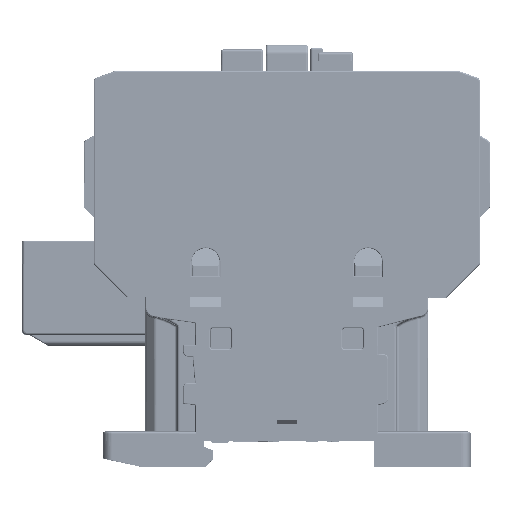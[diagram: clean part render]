
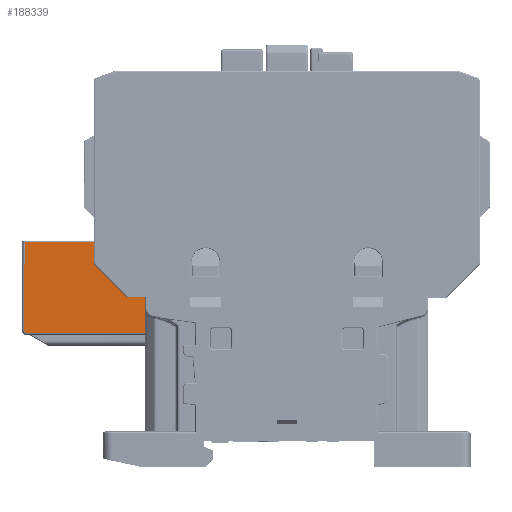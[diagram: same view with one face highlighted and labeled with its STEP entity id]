
A CAD part, top view. The second image highlights one B-rep face of the part: STEP entity #188339.
In plain terms, the highlighted planar face has unit normal (0, 0, 1).
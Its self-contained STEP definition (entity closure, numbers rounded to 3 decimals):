
#5070=DIRECTION('',(1.,0.,0.));
#5071=VECTOR('',#5070,0.1);
#5072=CARTESIAN_POINT('',(-25.2,7.,-16.45));
#5073=LINE('',#5072,#5071);
#5074=DIRECTION('',(0.,-1.,0.));
#5075=VECTOR('',#5074,4.8);
#5076=CARTESIAN_POINT('',(-25.1,11.8,-16.45));
#5077=LINE('',#5076,#5075);
#5078=DIRECTION('',(-1.,0.,0.));
#5079=VECTOR('',#5078,16.7);
#5080=CARTESIAN_POINT('',(-8.4,11.8,-16.45));
#5081=LINE('',#5080,#5079);
#5082=DIRECTION('',(0.,-1.,0.));
#5083=VECTOR('',#5082,1.3);
#5084=CARTESIAN_POINT('',(-8.4,11.8,-16.45));
#5085=LINE('',#5084,#5083);
#5086=DIRECTION('',(-1.,0.,0.));
#5087=VECTOR('',#5086,4.7);
#5088=CARTESIAN_POINT('',(-3.7,10.5,-16.45));
#5089=LINE('',#5088,#5087);
#5090=DIRECTION('',(0.,-1.,0.));
#5091=VECTOR('',#5090,4.2);
#5092=CARTESIAN_POINT('',(-3.7,10.5,-16.45));
#5093=LINE('',#5092,#5091);
#5094=DIRECTION('',(-0.394,0.919,0.));
#5095=VECTOR('',#5094,3.808);
#5096=CARTESIAN_POINT('',(-2.2,2.8,-16.45));
#5097=LINE('',#5096,#5095);
#5098=DIRECTION('',(-1.,0.,0.));
#5099=VECTOR('',#5098,2.5);
#5100=CARTESIAN_POINT('',(0.3,2.8,-16.45));
#5101=LINE('',#5100,#5099);
#5102=DIRECTION('',(0.,-1.,0.));
#5103=VECTOR('',#5102,2.8);
#5104=CARTESIAN_POINT('',(0.3,2.8,-16.45));
#5105=LINE('',#5104,#5103);
#5106=DIRECTION('',(1.,0.,0.));
#5107=VECTOR('',#5106,0.2);
#5108=CARTESIAN_POINT('',(0.3,0.,-16.45));
#5109=LINE('',#5108,#5107);
#5110=DIRECTION('',(0.,-1.,0.));
#5111=VECTOR('',#5110,7.5);
#5112=CARTESIAN_POINT('',(0.5,0.,-16.45));
#5113=LINE('',#5112,#5111);
#5114=DIRECTION('',(-1.,0.,0.));
#5115=VECTOR('',#5114,25.2);
#5116=CARTESIAN_POINT('',(0.5,-7.5,-16.45));
#5117=LINE('',#5116,#5115);
#5118=CARTESIAN_POINT('',(-24.7,-7.,-16.45));
#5119=DIRECTION('',(0.,0.,1.));
#5120=DIRECTION('',(-1.,0.,0.));
#5121=AXIS2_PLACEMENT_3D('',#5118,#5119,#5120);
#5123=DIRECTION('',(0.,1.,0.));
#5124=VECTOR('',#5123,14.);
#5125=CARTESIAN_POINT('',(-25.2,-7.,-16.45));
#5126=LINE('',#5125,#5124);
#147765=CARTESIAN_POINT('',(-3.7,10.5,-16.45));
#147767=VERTEX_POINT('',#147765);
#147800=CARTESIAN_POINT('',(0.3,2.8,-16.45));
#147801=CARTESIAN_POINT('',(-2.2,2.8,-16.45));
#147802=VERTEX_POINT('',#147800);
#147803=VERTEX_POINT('',#147801);
#147804=CARTESIAN_POINT('',(-3.7,6.3,-16.45));
#147805=VERTEX_POINT('',#147804);
#147814=CARTESIAN_POINT('',(0.3,0.,-16.45));
#147815=VERTEX_POINT('',#147814);
#148010=CARTESIAN_POINT('',(-25.2,7.,-16.45));
#148012=VERTEX_POINT('',#148010);
#148027=CARTESIAN_POINT('',(0.5,-7.5,-16.45));
#148028=VERTEX_POINT('',#148027);
#148053=CARTESIAN_POINT('',(-25.2,-7.,-16.45));
#148054=VERTEX_POINT('',#148053);
#148055=CARTESIAN_POINT('',(-24.7,-7.5,-16.45));
#148056=VERTEX_POINT('',#148055);
#159836=CARTESIAN_POINT('',(0.5,0.,-16.45));
#159838=VERTEX_POINT('',#159836);
#173747=CARTESIAN_POINT('',(-25.1,11.8,-16.45));
#173748=VERTEX_POINT('',#173747);
#174531=CARTESIAN_POINT('',(-8.4,11.8,-16.45));
#174532=VERTEX_POINT('',#174531);
#174960=CARTESIAN_POINT('',(-25.1,7.,-16.45));
#174961=VERTEX_POINT('',#174960);
#174970=CARTESIAN_POINT('',(-8.4,10.5,-16.45));
#174971=VERTEX_POINT('',#174970);
#188305=CARTESIAN_POINT('',(0.5,-8.,-16.45));
#188306=DIRECTION('',(0.,0.,1.));
#188307=DIRECTION('',(-1.,0.,0.));
#188308=AXIS2_PLACEMENT_3D('',#188305,#188306,#188307);
#188309=PLANE('',#188308);
#188311=ORIENTED_EDGE('',*,*,#188310,.T.);
#188313=ORIENTED_EDGE('',*,*,#188312,.F.);
#188315=ORIENTED_EDGE('',*,*,#188314,.F.);
#188317=ORIENTED_EDGE('',*,*,#188316,.T.);
#188319=ORIENTED_EDGE('',*,*,#188318,.F.);
#188321=ORIENTED_EDGE('',*,*,#188320,.T.);
#188323=ORIENTED_EDGE('',*,*,#188322,.F.);
#188325=ORIENTED_EDGE('',*,*,#188324,.F.);
#188327=ORIENTED_EDGE('',*,*,#188326,.T.);
#188329=ORIENTED_EDGE('',*,*,#188328,.T.);
#188330=ORIENTED_EDGE('',*,*,#188140,.T.);
#188332=ORIENTED_EDGE('',*,*,#188331,.T.);
#188334=ORIENTED_EDGE('',*,*,#188333,.F.);
#188336=ORIENTED_EDGE('',*,*,#188335,.T.);
#188337=EDGE_LOOP('',(#188311,#188313,#188315,#188317,#188319,#188321,#188323,
#188325,#188327,#188329,#188330,#188332,#188334,#188336));
#188338=FACE_OUTER_BOUND('',#188337,.F.);
#188339=ADVANCED_FACE('',(#188338),#188309,.T.);
#5122=CIRCLE('',#5121,0.5);
#188140=EDGE_CURVE('',#159838,#148028,#5113,.T.);
#188310=EDGE_CURVE('',#148012,#174961,#5073,.T.);
#188312=EDGE_CURVE('',#173748,#174961,#5077,.T.);
#188314=EDGE_CURVE('',#174532,#173748,#5081,.T.);
#188316=EDGE_CURVE('',#174532,#174971,#5085,.T.);
#188318=EDGE_CURVE('',#147767,#174971,#5089,.T.);
#188320=EDGE_CURVE('',#147767,#147805,#5093,.T.);
#188322=EDGE_CURVE('',#147803,#147805,#5097,.T.);
#188324=EDGE_CURVE('',#147802,#147803,#5101,.T.);
#188326=EDGE_CURVE('',#147802,#147815,#5105,.T.);
#188328=EDGE_CURVE('',#147815,#159838,#5109,.T.);
#188331=EDGE_CURVE('',#148028,#148056,#5117,.T.);
#188333=EDGE_CURVE('',#148054,#148056,#5122,.T.);
#188335=EDGE_CURVE('',#148054,#148012,#5126,.T.);
